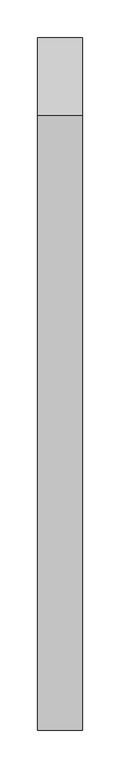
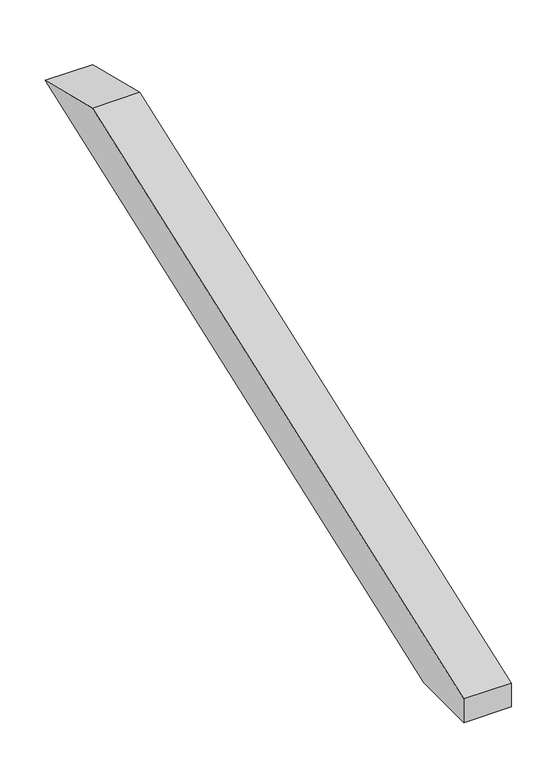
"""IFC4 building model written with IfcOpenShell, lengths in millimetres: proxy geometry, Modelos genéricos 57 : Modelos genéricos 14."""

from ifc_helpers import new_model, si_unit, frame, origin, place, context, project, spatial, polyline, outline, extrude, source, transform, mapped, element, save


def generic_models_2b7d2ed7(model_context):
    return source(origin(), model_context, "Body", "SweptSolid", [
        extrude(outline(polyline([(4380.24101, 3463.5158927), (3546.3379485, 3160.0), (3458.6238165, 3160.0), (3458.6238165, 3191.9253332), (4276.1307053, 3489.473507), (4380.24101, 3463.5158927)])), frame((-5376.5527533, 0.0, 0.0), z_axis=(1.0, 0.0, 0.0), x_axis=(0.0, 1.0, 0.0)), (0.0, 0.0, 1.0), 60.0),
    ])


if __name__ == "__main__":
    model = new_model("IFC4")
    model_context = context("Model", 3, world=origin())
    ifc_project = project(units=[si_unit("LENGTHUNIT", "METRE", prefix="MILLI")], contexts=[model_context])
    site = spatial("IfcSite", under=ifc_project)
    building = spatial("IfcBuilding", under=site)
    placement = place(None, origin())
    generic_models_shape = generic_models_2b7d2ed7(model_context)
    element("IfcBuildingElementProxy", 1, Name="Modelos genéricos 57 : Modelos genéricos 14", ObjectType="Modelos genéricos 57 : Modelos genéricos 14", at=placement, inside=building, context=model_context, shape_type="MappedRepresentation", body=[
        mapped(generic_models_shape, transform((0.0, 0.0, 0.0), x_axis=(1.0, 0.0, 0.0), y_axis=(0.0, 1.0, 0.0), z_axis=(0.0, 0.0, 1.0))),
    ])
    save(model, "model.ifc")
